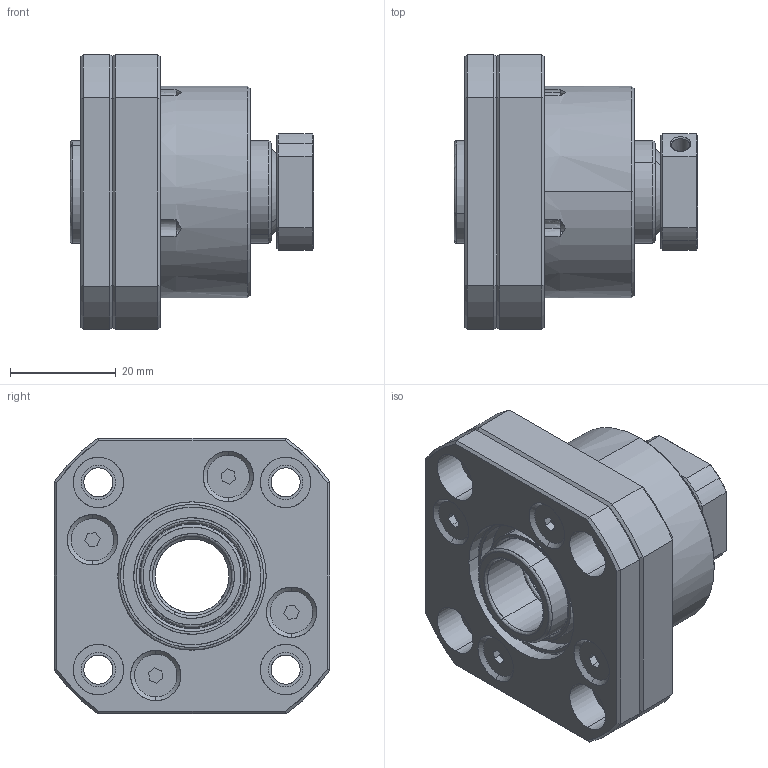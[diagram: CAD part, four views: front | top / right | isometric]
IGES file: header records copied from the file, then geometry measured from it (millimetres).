
Start section: SolidWorks IGES file using analytic representation for surfaces
Global section: file name: 4HC:\Users\117\Desktop\FK15組合B.IGS; native system: SolidWorks 2018; preprocessor: SolidWorks 2018; author: 117; date: 210929.092547; units: millimetre
Bounding box: 46 x 52 x 52 mm (x, y, z)
Surface area: 19422.7 mm2 (no closed solid volume)
Topology: 0 solids, 0 shells, 224 faces, 3010 edges, 3010 vertices
Faces by surface type: revolution 119, bspline 105
